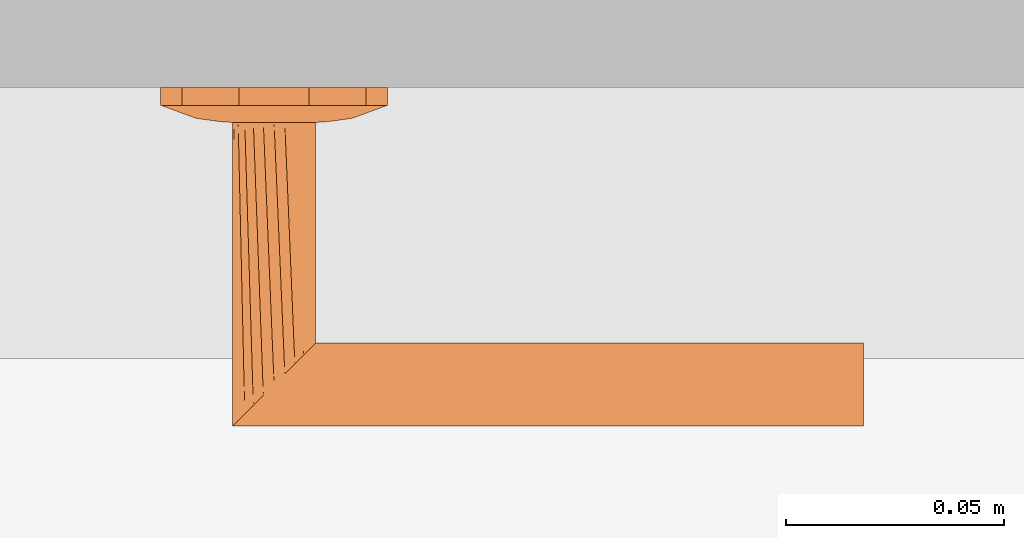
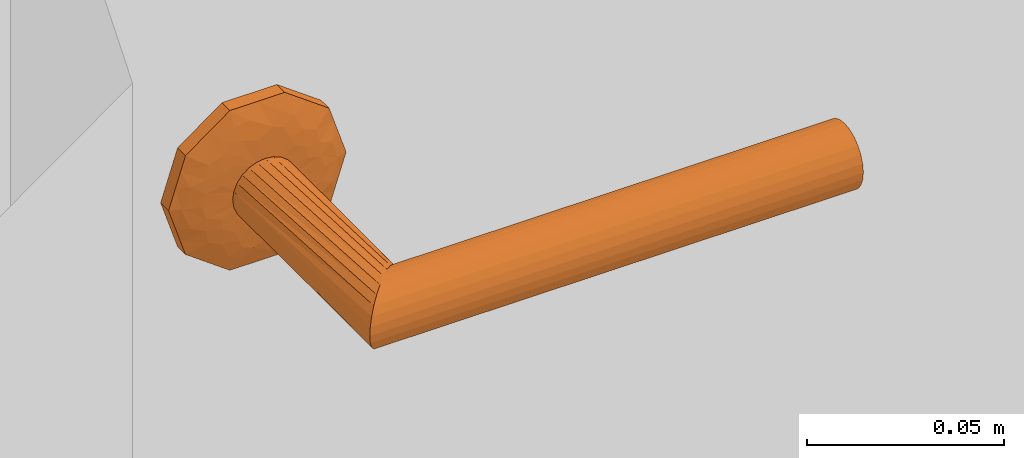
# One storey, part 26 of 42: 1 proxy.
"""IFC2X3 building model written with IfcOpenShell, lengths in millimetres."""

from ifc_helpers import new_model, entity, si_unit, converted_unit, direction, frame, origin, place, context, subcontext, project, spatial, faceted_brep, source, transform, mapped, material, type_object, type_shapes, element, save


model = new_model("IFC2X3")

# Units and contexts
model_context = context("Model", 3, precision=0.01, world=origin(), true_north=direction((6.123233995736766e-17, 1.0)))
plan_context = context("Plan", 3, precision=0.01, world=origin(), true_north=direction((6.123233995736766e-17, 1.0)))
body_context = subcontext(model_context, "Body", "Model", "MODEL_VIEW")
ifc_project = project(units=[si_unit("LENGTHUNIT", "METRE", prefix="MILLI"), converted_unit("PLANEANGLEUNIT", "DEGREE", entity("IfcPlaneAngleMeasure", 0.017453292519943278), si_unit("PLANEANGLEUNIT", "RADIAN"), dimensions=[0, 0, 0, 0, 0, 0, 0]), si_unit("AREAUNIT", "SQUARE_METRE")], contexts=[model_context, plan_context])

# Site, building, storey
site_placement = place(None, origin())
site = spatial("IfcSite", under=ifc_project, at=site_placement, Name="Default", CompositionType="ELEMENT")
building_placement = place(site_placement, origin())
building = spatial("IfcBuilding", under=site, at=building_placement, CompositionType="ELEMENT")
storey_placement = place(building_placement, frame((0.0, 0.0, 9465.000076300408)))
storey = spatial("IfcBuildingStorey", under=building, at=storey_placement, Name="4K", CompositionType="ELEMENT", Elevation=9465.000076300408)

# Proxy
ifc_material = material(Name="<Unnamed>")
building_element_proxy_type = type_object("IfcBuildingElementProxyType", Name="Door-handle_Lever_ABLOY_INOXI_3-19ss-002_RT:Default", PredefinedType="NOTDEFINED", material=ifc_material)
shared_shape = source(origin(), body_context, "Body", "Brep", [
    faceted_brep([(0.0, 0.0, 0.0), (8.034441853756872, 24.72746942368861, 0.0), (14.534441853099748, 20.00494299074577, 0.0), (21.034441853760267, 15.282416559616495, 0.0), (23.51722092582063, 7.641208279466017, 0.0), (26.0, 0.0, 0.0), (23.517220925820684, -7.641208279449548, 0.0), (0.0, 24.72746942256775, 0.0), (-8.034441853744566, 24.727469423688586, 0.0), (-14.534441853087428, 20.00494299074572, 0.0), (-21.03444185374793, 15.282416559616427, 0.0), (-23.517220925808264, 7.641208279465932, 0.0), (-26.0, 0.0, 0.0), (21.034441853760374, -15.282416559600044, 0.0), (14.534441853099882, -20.004942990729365, 0.0), (8.034441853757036, -24.72746942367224, 0.0), (0.0, -24.72746942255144, 0.0), (-23.517220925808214, -7.641208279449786, 0.0), (-21.034441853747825, -15.282416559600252, 0.0), (-14.53444185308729, -20.004942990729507, 0.0), (-8.0344418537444, -24.72746942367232, 0.0), (0.0, 0.0, 8.0), (9.500000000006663, 0.0, 8.0), (8.312500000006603, 2.056810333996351, 8.0), (7.125000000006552, 4.113620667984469, 8.0), (5.937500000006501, 6.170431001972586, 8.0), (4.7500000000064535, 8.227241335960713, 8.0), (2.375000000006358, 8.2272413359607, 8.0), (0.0, 8.227241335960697, 8.0), (-2.3749999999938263, 8.227241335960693, 8.0), (-4.749999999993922, 8.227241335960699, 8.0), (-5.937499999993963, 6.1704310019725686, 8.0), (-7.124999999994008, 4.1136206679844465, 8.0), (-8.312499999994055, 2.0568103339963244, 8.0), (-9.499999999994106, 0.0, 8.0), (-8.31249999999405, -2.0568103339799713, 8.0), (8.312500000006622, -2.0568103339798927, 8.0), (7.125000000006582, -4.113620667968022, 8.0), (5.937500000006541, -6.170431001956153, 8.0), (4.750000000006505, -8.227241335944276, 8.0), (-7.124999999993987, -4.113620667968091, 8.0), (-5.9374999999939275, -6.17043100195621, 8.0), (-4.74999999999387, -8.227241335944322, 8.0), (-2.374999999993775, -8.227241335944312, 8.0), (0.0, -8.227241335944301, 8.0), (2.3750000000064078, -8.227241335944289, 8.0), (-20.6430713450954, 6.292822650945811, 5.929480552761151), (-16.663919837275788, 7.932665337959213, 6.877259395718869), (-22.48876527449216, 10.806469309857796, 4.030771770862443), (-16.764060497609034, 3.8202578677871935, 7.1747985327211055), (-12.504579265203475, 5.179566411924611, 7.774932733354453), (-11.979136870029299, 13.678312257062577, 6.945778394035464), (-11.963426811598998, 8.62529041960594, 7.618343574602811), (-9.07172672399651, 10.31160661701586, 7.7520782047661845), (8.03444185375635, 24.727469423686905, 4.030771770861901), (0.0, 24.72746942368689, 4.030771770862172), (5.758554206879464, 20.96753300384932, 5.871476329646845), (20.643071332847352, 6.292822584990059, 5.929480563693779), (22.488765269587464, 10.806469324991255, 4.03077177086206), (16.66391982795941, 7.9326653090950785, 6.877259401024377), (9.49943163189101, 18.6436835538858, 6.154325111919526), (14.534441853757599, 20.004942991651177, 4.030771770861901), (-14.534441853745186, 20.00494299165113, 4.030771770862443), (-21.034441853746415, 15.282416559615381, 4.030771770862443), (-15.783149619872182, 11.991003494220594, 6.50080018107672), (-23.943088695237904, 6.330522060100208, 4.030771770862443), (-23.012042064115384, 0.0, 5.135401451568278), (12.50457924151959, 5.179566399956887, 7.774932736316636), (11.963426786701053, 8.625290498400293, 7.618343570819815), (16.76406041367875, 3.820257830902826, 7.17479855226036), (15.783149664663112, 11.991003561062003, 6.50080015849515), (23.01204200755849, 0.0, 5.135401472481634), (17.9853516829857, 0.0, 6.993737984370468), (8.661516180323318, 10.478936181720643, 7.768126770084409), (-3.3573143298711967, 21.197247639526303, 5.971427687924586), (-8.03444185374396, 24.727469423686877, 4.030771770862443), (-7.711266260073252, 12.76034452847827, 7.594456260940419), (-5.97325794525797, 16.43013906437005, 7.110979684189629), (-9.94191586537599, 17.061976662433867, 6.522757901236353), (11.979136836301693, 13.678312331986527, 6.945778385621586), (5.953298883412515, 16.50608604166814, 7.096344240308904), (7.511307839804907, 13.358932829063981, 7.529187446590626), (-1.5654593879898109, 15.307443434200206, 7.519134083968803), (-7.784980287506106, 20.476295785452, 5.812837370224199), (2.8135289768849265, 17.763922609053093, 6.993737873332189), (-17.985351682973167, 0.0, 6.993737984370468), (-26.0, 0.0, 4.030771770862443), (-23.51722092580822, 7.641208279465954, 4.030771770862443), (26.0, 0.0, 4.030771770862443), (24.308823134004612, 5.204907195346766, 4.030771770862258), (23.943088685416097, 6.330522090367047, 4.030771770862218), (21.03444185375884, 15.282416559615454, 4.030771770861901), (22.617646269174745, 10.40981439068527, 4.030771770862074), (20.6430713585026, -6.292822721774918, 5.929480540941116), (16.663919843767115, -7.932665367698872, 6.877259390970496), (22.48876527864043, -10.8064692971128, 4.030771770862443), (16.764060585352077, -3.8202579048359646, 7.174798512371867), (12.504579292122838, -5.17956641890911, 7.774932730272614), (11.979136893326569, -13.678312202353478, 6.9457784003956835), (11.963426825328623, -8.62529034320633, 7.618343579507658), (9.071726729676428, -10.311606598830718, 7.752078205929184), (-8.03444185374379, -24.727469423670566, 4.030771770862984), (0.0, -24.727469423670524, 4.030771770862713), (-5.758554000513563, -20.96753314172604, 5.8714763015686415), (-20.643071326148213, -6.292822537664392, 5.929480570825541), (-22.488765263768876, -10.80646934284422, 4.030771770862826), (-16.66391981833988, -7.932665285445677, 6.877259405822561), (-9.499431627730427, -18.643683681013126, 6.154325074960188), (-14.534441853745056, -20.004942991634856, 4.030771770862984), (14.53444185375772, -20.00494299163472, 4.030771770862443), (21.034441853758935, -15.282416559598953, 4.030771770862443), (15.783149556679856, -11.991003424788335, 6.5008002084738), (23.943088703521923, -6.330522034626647, 4.030771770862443), (-12.504579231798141, -5.17956638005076, 7.77493273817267), (-11.963426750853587, -8.625290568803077, 7.618343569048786), (-16.764060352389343, -3.8202577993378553, 7.174798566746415), (-15.783149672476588, -11.991003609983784, 6.500800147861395), (-8.661516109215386, -10.478936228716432, 7.768126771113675), (3.3573144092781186, -21.197247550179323, 5.971427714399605), (8.034441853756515, -24.727469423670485, 4.030771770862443), (7.711266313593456, -12.760344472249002, 7.5944562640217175), (5.9732581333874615, -16.430139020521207, 7.110979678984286), (9.941915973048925, -17.06197655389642, 6.522757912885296), (-11.979136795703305, -13.678312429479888, 6.945778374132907), (-5.953298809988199, -16.506086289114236, 7.096344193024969), (-7.511307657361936, -13.358932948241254, 7.5291874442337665), (1.5654596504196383, -15.3074431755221, 7.519134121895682), (7.784980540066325, -20.476295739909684, 5.812837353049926), (-2.81352881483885, -17.76392263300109, 6.993737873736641), (23.517220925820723, -7.64120827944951, 4.030771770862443), (-24.308823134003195, -5.20490719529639, 4.030771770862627), (-23.943088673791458, -6.330522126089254, 4.030771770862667), (-21.034441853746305, -15.282416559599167, 4.030771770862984), (-22.617646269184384, -10.409814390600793, 4.0307717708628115)], [[[0, 1, 2]], [[0, 2, 3]], [[0, 3, 4]], [[0, 4, 5]], [[0, 5, 6]], [[0, 7, 1]], [[0, 8, 7]], [[0, 9, 8]], [[0, 10, 9]], [[0, 11, 10]], [[0, 12, 11]], [[0, 6, 13]], [[0, 13, 14]], [[0, 14, 15]], [[0, 15, 16]], [[0, 17, 12]], [[0, 18, 17]], [[0, 19, 18]], [[0, 20, 19]], [[0, 16, 20]], [[21, 22, 23]], [[21, 23, 24]], [[21, 24, 25]], [[21, 25, 26]], [[21, 26, 27]], [[21, 27, 28]], [[21, 28, 29]], [[21, 29, 30]], [[21, 30, 31]], [[21, 31, 32]], [[21, 32, 33]], [[21, 33, 34]], [[21, 34, 35]], [[21, 36, 22]], [[21, 37, 36]], [[21, 38, 37]], [[21, 39, 38]], [[21, 35, 40]], [[21, 40, 41]], [[21, 41, 42]], [[21, 42, 43]], [[21, 43, 44]], [[21, 44, 45]], [[21, 45, 39]], [[46, 47, 48]], [[49, 50, 47]], [[33, 32, 50]], [[51, 52, 53]], [[32, 52, 50]], [[49, 47, 46]], [[54, 55, 56]], [[57, 58, 59]], [[60, 61, 54]], [[62, 63, 64]], [[46, 65, 66]], [[67, 59, 68]], [[23, 69, 67]], [[70, 68, 59]], [[23, 22, 69]], [[52, 51, 64]], [[71, 69, 72]], [[73, 25, 68]], [[74, 55, 75]], [[76, 77, 78]], [[70, 61, 79]], [[71, 57, 69]], [[60, 80, 81]], [[51, 76, 78]], [[77, 29, 82]], [[26, 81, 27]], [[74, 83, 77]], [[77, 82, 74]], [[74, 84, 55]], [[34, 49, 85]], [[23, 67, 24]], [[28, 84, 82]], [[74, 82, 84]], [[29, 76, 30]], [[29, 28, 82]], [[49, 34, 33]], [[47, 50, 52]], [[47, 52, 64]], [[50, 49, 33]], [[53, 76, 51]], [[52, 32, 31]], [[49, 66, 85]], [[86, 66, 65]], [[24, 67, 68]], [[83, 78, 77]], [[49, 46, 66]], [[48, 64, 63]], [[46, 48, 87, 65]], [[48, 47, 64]], [[59, 67, 69]], [[26, 73, 81]], [[79, 68, 70]], [[25, 24, 68]], [[71, 88, 89, 90]], [[22, 72, 69]], [[59, 69, 57]], [[79, 61, 60]], [[51, 62, 64]], [[70, 58, 91]], [[90, 57, 71]], [[58, 70, 59]], [[57, 90, 92]], [[79, 60, 81]], [[61, 70, 91]], [[56, 80, 60]], [[79, 81, 73]], [[80, 84, 27]], [[79, 73, 68]], [[27, 84, 28]], [[25, 73, 26]], [[77, 76, 29]], [[31, 30, 53]], [[78, 62, 51]], [[75, 62, 83]], [[78, 83, 62]], [[75, 83, 74]], [[76, 53, 30]], [[31, 53, 52]], [[81, 80, 27]], [[84, 80, 56]], [[84, 56, 55]], [[54, 56, 60]], [[93, 94, 95]], [[96, 97, 94]], [[36, 37, 97]], [[98, 99, 100]], [[37, 99, 97]], [[96, 94, 93]], [[101, 102, 103]], [[104, 105, 106]], [[107, 108, 101]], [[109, 110, 111]], [[93, 112, 71]], [[113, 106, 114]], [[35, 115, 113]], [[116, 114, 106]], [[35, 34, 115]], [[99, 98, 111]], [[66, 115, 85]], [[117, 41, 114]], [[118, 102, 119]], [[120, 121, 122]], [[116, 108, 123]], [[66, 104, 115]], [[107, 124, 125]], [[120, 45, 121]], [[121, 45, 126]], [[42, 125, 43]], [[118, 127, 121]], [[121, 126, 118]], [[118, 128, 102]], [[22, 96, 72]], [[35, 113, 40]], [[44, 128, 126]], [[118, 126, 128]], [[45, 120, 39]], [[45, 44, 126]], [[96, 22, 36]], [[94, 97, 99]], [[94, 99, 111]], [[97, 96, 36]], [[100, 120, 98]], [[99, 37, 38]], [[96, 71, 72]], [[88, 71, 112]], [[40, 113, 114]], [[127, 122, 121]], [[96, 93, 71]], [[95, 111, 110]], [[93, 95, 129, 112]], [[95, 94, 111]], [[106, 113, 115]], [[42, 117, 125]], [[123, 114, 116]], [[41, 40, 114]], [[66, 86, 130, 131]], [[34, 85, 115]], [[106, 115, 104]], [[123, 108, 107]], [[98, 109, 111]], [[116, 105, 132]], [[131, 104, 66]], [[105, 116, 106]], [[104, 131, 133]], [[123, 107, 125]], [[108, 116, 132]], [[103, 124, 107]], [[123, 125, 117]], [[124, 128, 43]], [[123, 117, 114]], [[43, 128, 44]], [[41, 117, 42]], [[38, 39, 100]], [[98, 120, 122]], [[122, 109, 98]], [[119, 109, 127]], [[122, 127, 109]], [[119, 127, 118]], [[120, 100, 39]], [[38, 100, 99]], [[125, 124, 43]], [[128, 124, 103]], [[128, 103, 102]], [[101, 103, 107]], [[9, 10, 63, 62, 75, 8]], [[11, 12, 86, 65, 87, 48, 63, 10]], [[4, 3, 92, 90, 89, 88, 5]], [[3, 91, 58]], [[55, 54, 1, 7, 8, 75]], [[3, 2, 1, 54, 61, 91]], [[13, 6, 5, 88, 112, 129, 95, 110]], [[119, 15, 14, 13, 110, 109]], [[17, 18, 133, 131, 130, 86, 12]], [[18, 132, 105]], [[102, 101, 20, 16, 15, 119]], [[18, 19, 20, 101, 108, 132]], [[57, 92, 58]], [[104, 133, 105]], [[3, 58, 92]], [[18, 105, 133]]]),
    faceted_brep([(0.0, 9.499999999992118, 8.0), (2.4587809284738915, 9.176295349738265, 8.0), (4.7499999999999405, 8.22724133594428, 8.0), (6.717514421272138, 6.7175144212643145, 8.0), (8.227241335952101, 4.749999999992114, 8.0), (9.17629534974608, 2.458780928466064, 8.0), (9.499999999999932, 0.0, 8.0), (9.17629534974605, -2.458780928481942, 8.0), (8.22724133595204, -4.75000000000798, 8.0), (6.717514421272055, -6.717514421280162, 8.0), (4.7499999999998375, -8.227241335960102, 8.0), (2.4587809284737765, -9.176295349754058, 8.0), (0.0, -9.500000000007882, 8.0), (-2.4587809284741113, -9.176295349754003, 8.0), (-4.750000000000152, -8.227241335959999, 8.0), (-6.717514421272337, -6.717514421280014, 8.0), (-8.227241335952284, -4.750000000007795, 8.0), (-9.176295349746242, -2.458780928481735, 8.0), (-9.500000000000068, 0.0, 8.0), (-9.176295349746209, 2.4587809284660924, 8.0), (-8.227241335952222, 4.74999999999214, 8.0), (-6.717514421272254, 6.717514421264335, 8.0), (-4.7500000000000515, 8.227241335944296, 8.0), (-2.4587809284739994, 9.176295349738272, 8.0), (-6.717514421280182, -6.7175144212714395, 61.282485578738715), (-8.227241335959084, -4.7499999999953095, 59.772758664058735), (-9.176295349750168, -2.458780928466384, 58.82370465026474), (-2.4587809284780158, -9.176295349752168, 65.54121907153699), (-4.750000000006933, -8.227241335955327, 63.25000000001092), (-9.500000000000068, 0.0, 58.50000000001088), (0.0, -9.50000000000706, 68.0), (2.4587809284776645, -9.17629534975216, 70.45878092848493), (4.750000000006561, -8.227241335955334, 72.75000000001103), (6.717514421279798, -6.7175144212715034, 74.71751442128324), (9.17629534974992, -2.458780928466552, 77.17629534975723), (8.22724133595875, -4.749999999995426, 76.22724133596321), (9.499999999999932, 0.0, 77.50000000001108), (9.176295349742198, 2.4587809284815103, 77.1762953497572), (8.227241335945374, 4.750000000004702, 76.22724133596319), (4.749999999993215, 8.227241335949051, 72.75000000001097), (6.7175144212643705, 6.717514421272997, 74.7175144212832), (2.4587809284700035, 9.17629534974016, 70.45878092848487), (-2.4587809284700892, 9.176295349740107, 65.54121907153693), (0.0, 9.49999999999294, 68.0), (-6.717514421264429, 6.717514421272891, 61.282485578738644), (-4.749999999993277, 8.227241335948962, 63.250000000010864), (-9.176295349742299, 2.458780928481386, 58.8237046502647), (-8.227241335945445, 4.750000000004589, 59.77275866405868), (-135.0, 9.500000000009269, 68.0), (-135.0, 9.176295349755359, 65.54121907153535), (-135.0, 8.227241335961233, 63.25000000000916), (-135.0, 6.7175144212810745, 61.28248557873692), (-135.0, 4.750000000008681, 59.772758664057), (-135.0, 2.458780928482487, 58.82370465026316), (-135.0, 0.0, 58.50000000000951), (-135.0, -2.458780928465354, 58.823704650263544), (-135.0, -4.749999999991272, 59.772758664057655), (-135.0, -6.717514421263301, 61.28248557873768), (-135.0, -8.227241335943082, 63.250000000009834), (-135.0, -9.17629534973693, 65.54121907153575), (-135.0, -9.499999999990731, 68.0), (-135.0, -9.17629534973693, 70.45878092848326), (-135.0, -8.227241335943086, 72.75000000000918), (-135.0, -6.717514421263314, 74.71751442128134), (-135.0, -4.749999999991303, 76.22724133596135), (-135.0, -2.4587809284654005, 77.17629534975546), (-135.0, 0.0, 77.5000000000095), (-135.0, 2.4587809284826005, 77.17629534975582), (-135.0, 4.750000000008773, 76.22724133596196), (-135.0, 6.717514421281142, 74.71751442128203), (-135.0, 8.227241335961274, 72.75000000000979), (-135.0, 9.176295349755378, 70.4587809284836)], [[[0, 1, 2, 3, 4, 5, 6, 7, 8, 9, 10, 11, 12, 13, 14, 15, 16, 17, 18, 19, 20, 21, 22, 23]], [[15, 24, 25, 16]], [[16, 25, 26, 17]], [[27, 28, 12]], [[12, 28, 13]], [[13, 28, 24]], [[18, 17, 26, 29]], [[24, 15, 14]], [[14, 13, 24]], [[11, 30, 27]], [[31, 9, 32]], [[32, 8, 33]], [[34, 35, 7]], [[7, 35, 33]], [[36, 34, 7, 6]], [[30, 11, 10]], [[11, 27, 12]], [[33, 8, 7]], [[8, 32, 9]], [[31, 10, 9]], [[10, 31, 30]], [[37, 36, 6, 5]], [[37, 5, 38]], [[39, 40, 4]], [[5, 40, 38]], [[41, 39, 3]], [[5, 4, 40]], [[42, 43, 1]], [[2, 1, 43]], [[2, 41, 3]], [[39, 4, 3]], [[2, 43, 41]], [[23, 44, 45]], [[0, 45, 42]], [[19, 18, 29, 46]], [[20, 19, 46, 47]], [[21, 20, 47, 44]], [[23, 22, 44]], [[45, 0, 23]], [[44, 22, 21]], [[1, 0, 42]], [[48, 49, 50, 51, 52, 53, 54, 55, 56, 57, 58, 59, 60, 61, 62, 63, 64, 65, 66, 67, 68, 69, 70, 71]], [[26, 25, 56, 55]], [[29, 26, 55, 54]], [[28, 27, 59, 58]], [[24, 28, 58, 57]], [[25, 24, 57, 56]], [[27, 30, 60, 59]], [[32, 33, 63, 62]], [[31, 32, 62, 61]], [[34, 36, 66, 65]], [[35, 34, 65, 64]], [[33, 35, 64, 63]], [[61, 60, 30, 31]], [[38, 68, 67, 37]], [[37, 67, 66, 36]], [[41, 71, 70, 39]], [[39, 70, 69, 40]], [[40, 69, 68, 38]], [[48, 71, 41, 43]], [[44, 51, 50, 45]], [[45, 50, 49, 42]], [[29, 54, 53, 46]], [[46, 53, 52, 47]], [[47, 52, 51, 44]], [[42, 49, 48, 43]]]),
])
type_shapes(building_element_proxy_type, [shared_shape])
proxy_placement = place(storey_placement, frame((11224.9935349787, 4272.0, 1000.0), z_axis=(0.0, -1.0, 0.0), x_axis=(-1.0, 0.0, 0.0)))
element("IfcBuildingElementProxy", 1, at=proxy_placement, inside=storey, type_object=building_element_proxy_type, material=ifc_material, Name="Door-handle_Lever_ABLOY_INOXI_3-19ss-002_RT:Default", ObjectType="Door-handle_Lever_ABLOY_INOXI_3-19ss-002_RT:Default", context=body_context, shape_type="MappedRepresentation", body=[
    mapped(shared_shape, transform((0.0, 0.0, 0.0), scale=1.0)),
])

save(model, "model.ifc")
